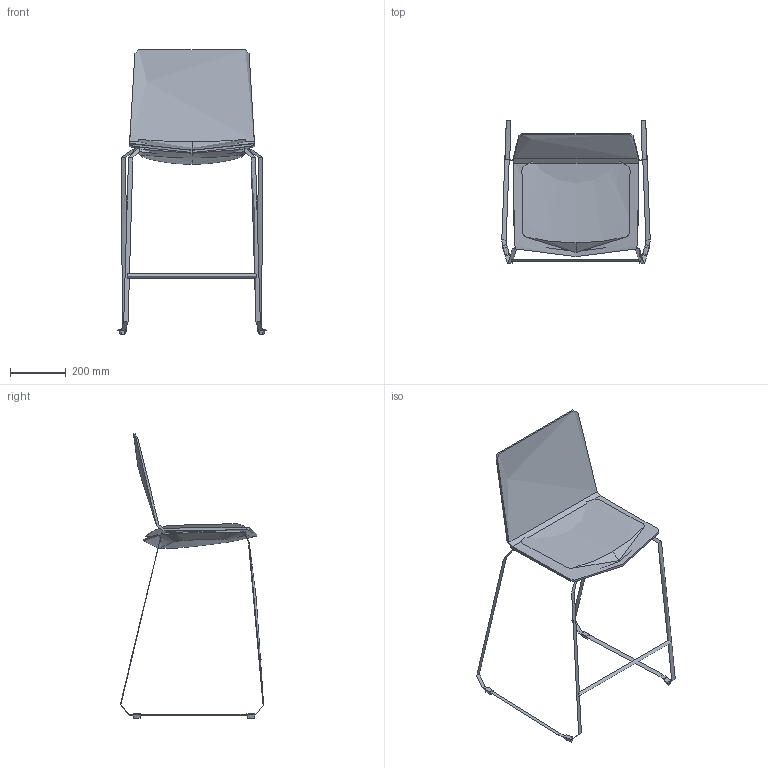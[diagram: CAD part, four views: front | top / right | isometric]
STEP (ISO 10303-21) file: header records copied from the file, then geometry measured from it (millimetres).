
FILE_DESCRIPTION(/* description */ (''),/* implementation_level */ '2;1');
FILE_NAME(/* name */ 'SKYFRE~3',/* time_stamp */ '2017-09-29T20:36:03+02:00',/* author */ (''),/* organization */ (''),/* preprocessor_version */ 'ST-DEVELOPER v15',/* originating_system */ '',/* authorisation */ '');
FILE_SCHEMA (('CONFIG_CONTROL_DESIGN'));
Length unit declared in the file: millimetre
Products named in the file (1): Document
Bounding box: 534.48 x 516.39 x 1024.58 mm (x, y, z)
Volume: 4185256.7 mm3; surface area: 1341805 mm2
Topology: 11 solids, 18 shells, 134 faces, 313 edges, 200 vertices
Faces by surface type: bspline 112, plane 22
Entity records: 10628 total; most frequent: CARTESIAN_POINT 8818, ORIENTED_EDGE 582, EDGE_CURVE 310, VERTEX_POINT 200, ADVANCED_FACE 134, FACE_OUTER_BOUND 134, EDGE_LOOP 134, B_SPLINE_CURVE_WITH_KNOTS 78
